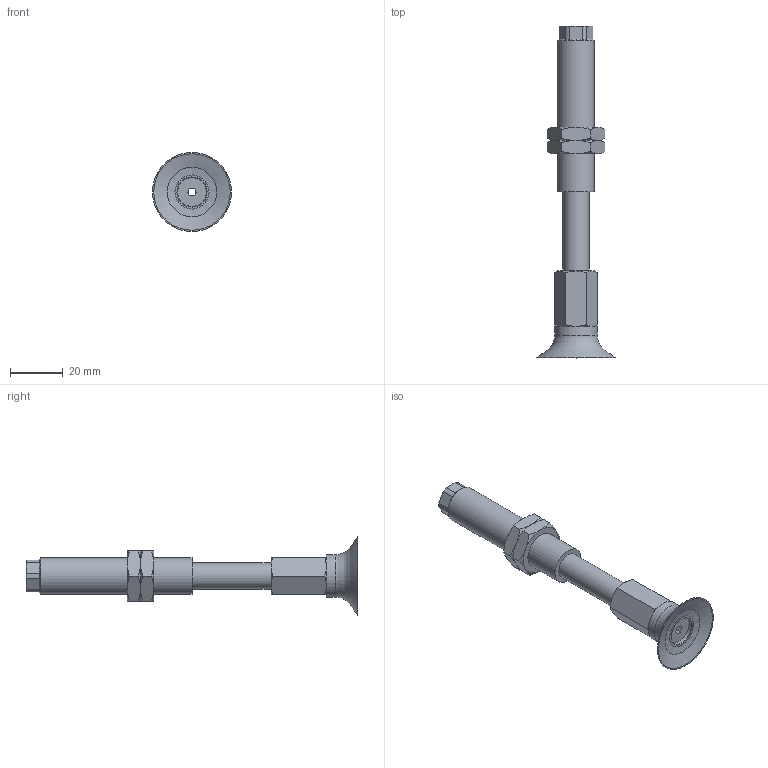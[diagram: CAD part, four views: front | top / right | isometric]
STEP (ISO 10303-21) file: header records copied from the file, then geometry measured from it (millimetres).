
FILE_DESCRIPTION(('STEP AP203'),'1');
FILE_NAME('.stp','2025-08-27T06:03:59',(' '),(' '),'Spatial InterOp 3D',' ',' ');
FILE_SCHEMA(('CONFIG_CONTROL_DESIGN'));
Length unit declared in the file: millimetre
Products named in the file (7): BNABPFTS-30-30-※; ADAPTER; NAPFTS-30-30-MBODY; TN-PF-30-M6-NAPF; Nut-30-30-s; NAPFTS-30-30-FBODY; BPFG-30-※
Assembly tree (7 placements, depth 2):
  BNABPFTS-30-30-※
    ADAPTER
    NAPFTS-30-30-MBODY
    TN-PF-30-M6-NAPF
    Nut-30-30-s  x2
    NAPFTS-30-30-FBODY
    BPFG-30-※
Bounding box: 30 x 126 x 30 mm (x, y, z)
Volume: 19015.4 mm3; surface area: 14596.4 mm2
Topology: 7 solids, 7 shells, 129 faces, 272 edges, 163 vertices
Faces by surface type: plane 56, cone 46, cylinder 21, torus 5, bspline 1
Full cylindrical faces by diameter (mm): 3 x3, 4.134 x1, 4.917 x1, 6 x2, 10 x2, 11 x2, 12.917 x2, 14 x1, 16 x1
Entity records: 3281 total; most frequent: CARTESIAN_POINT 801, DIRECTION 454, ORIENTED_EDGE 384, AXIS2_PLACEMENT_3D 197, EDGE_CURVE 192, EDGE_LOOP 152, VERTEX_POINT 132, FACE_OUTER_BOUND 126
